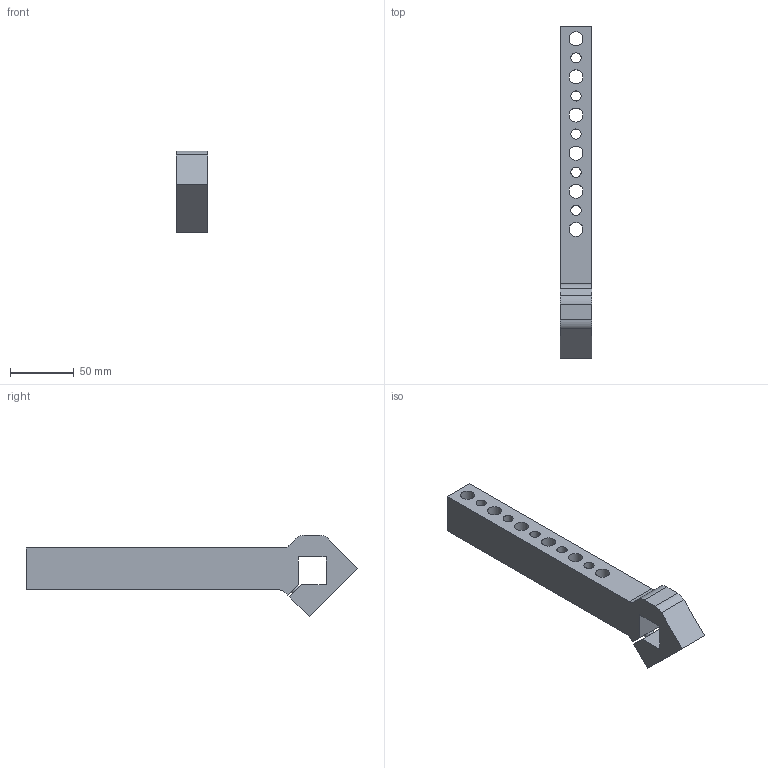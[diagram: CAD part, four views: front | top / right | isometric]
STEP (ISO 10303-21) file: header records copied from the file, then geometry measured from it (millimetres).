
FILE_DESCRIPTION(/* description */ (''),/* implementation_level */ '2;1');
FILE_NAME(/* name */ 'C:\PNX_VAULTFOLDER\Area Tecnica\Disegni\VARIE-3D\Componenti\7000\QNACA###M\QNACA010M.stp',/* time_stamp */ '2018-10-18T14:52:41+02:00',/* author */ ('donadda1'),/* organization */ ('Pneumax S.p.A.'),/* preprocessor_version */ 'ST-DEVELOPER v17',/* originating_system */ 'Autodesk Inventor 2019',/* authorisation */ '');
FILE_SCHEMA (('AUTOMOTIVE_DESIGN { 1 0 10303 214 3 1 1 }'));
Length unit declared in the file: millimetre
Products named in the file (1): QNACA010M
Bounding box: 25 x 261.06 x 64.06 mm (x, y, z)
Volume: 187396.4 mm3; surface area: 43978.7 mm2
Topology: 1 solids, 1 shells, 33 faces, 93 edges, 62 vertices
Faces by surface type: plane 17, cylinder 16
Full cylindrical faces by diameter (mm): 8 x6, 11 x6
Entity records: 1166 total; most frequent: DIRECTION 193, CARTESIAN_POINT 189, ORIENTED_EDGE 186, EDGE_CURVE 93, AXIS2_PLACEMENT_3D 66, VERTEX_POINT 62, LINE 61, VECTOR 61
